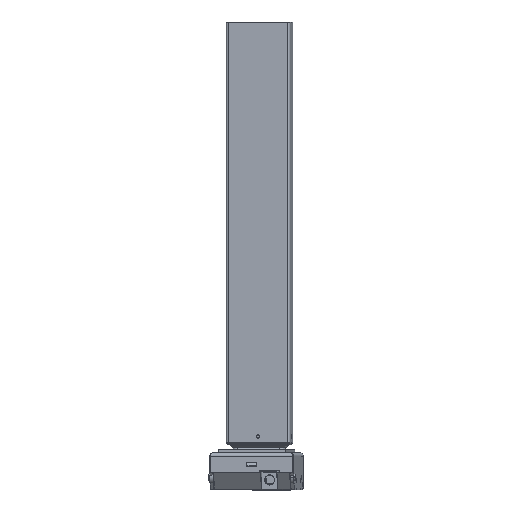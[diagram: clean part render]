
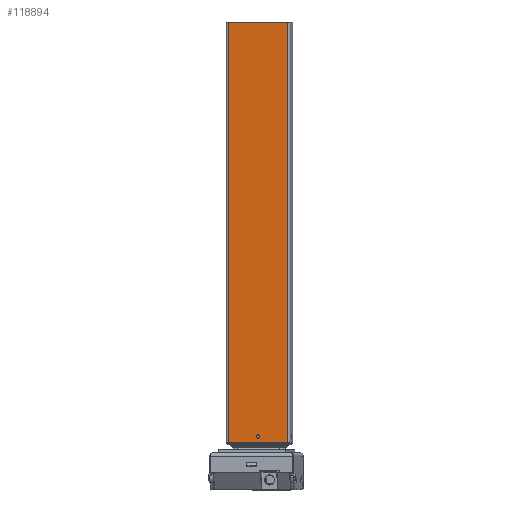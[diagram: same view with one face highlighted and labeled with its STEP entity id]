
A CAD part, left-side view. The second image highlights one B-rep face of the part: STEP entity #118894.
In plain terms, the highlighted planar face has unit normal (-0.998, 0.066, 0).
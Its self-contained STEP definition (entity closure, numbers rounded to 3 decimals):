
#2938 = CIRCLE ( 'NONE', #82003, 2. ) ;
#3315 = CARTESIAN_POINT ( 'NONE',  ( -137.133, 573.7, 275.519 ) ) ;
#5160 = VERTEX_POINT ( 'NONE', #75846 ) ;
#5946 = LINE ( 'NONE', #13181, #78690 ) ;
#7484 = DIRECTION ( 'NONE',  ( 0.066, 0.998, 0. ) ) ;
#8594 = DIRECTION ( 'NONE',  ( -0.998, 0.066, 0. ) ) ;
#12582 = EDGE_CURVE ( 'NONE', #5160, #86322, #30021, .T. ) ;
#13181 = CARTESIAN_POINT ( 'NONE',  ( -142.034, 499.863, 275.519 ) ) ;
#19700 = ORIENTED_EDGE ( 'NONE', *, *, #46180, .T. ) ;
#23127 = EDGE_LOOP ( 'NONE', ( #19700, #80571, #56531, #83882 ) ) ;
#27824 = EDGE_CURVE ( 'NONE', #75707, #83842, #2938, .T. ) ;
#28682 = LINE ( 'NONE', #63483, #53791 ) ;
#28803 = FACE_BOUND ( 'NONE', #111933, .T. ) ;
#30021 = LINE ( 'NONE', #3315, #121897 ) ;
#30097 = ORIENTED_EDGE ( 'NONE', *, *, #100463, .F. ) ;
#31633 = CARTESIAN_POINT ( 'NONE',  ( -139.584, 536.781, 283.019 ) ) ;
#42746 = LINE ( 'NONE', #98890, #54491 ) ;
#46180 = EDGE_CURVE ( 'NONE', #95981, #5160, #42746, .T. ) ;
#49522 = CARTESIAN_POINT ( 'NONE',  ( -137.133, 573.7, 275.519 ) ) ;
#50927 = DIRECTION ( 'NONE',  ( 0., 0., 1. ) ) ;
#51466 = PLANE ( 'NONE',  #90442 ) ;
#52251 = CARTESIAN_POINT ( 'NONE',  ( -139.716, 534.786, 283.019 ) ) ;
#53791 = VECTOR ( 'NONE', #7484, 1000. ) ;
#54491 = VECTOR ( 'NONE', #117518, 1000. ) ;
#56531 = ORIENTED_EDGE ( 'NONE', *, *, #110982, .F. ) ;
#56684 = CARTESIAN_POINT ( 'NONE',  ( -139.584, 536.781, 283.019 ) ) ;
#60206 = DIRECTION ( 'NONE',  ( 0.066, 0.998, 0. ) ) ;
#63483 = CARTESIAN_POINT ( 'NONE',  ( -136.934, 576.693, 275.519 ) ) ;
#65669 = CARTESIAN_POINT ( 'NONE',  ( -142.034, 499.863, 275.519 ) ) ;
#67107 = AXIS2_PLACEMENT_3D ( 'NONE', #31633, #117065, #60206 ) ;
#69654 = DIRECTION ( 'NONE',  ( 0., 0., -1. ) ) ;
#72969 = DIRECTION ( 'NONE',  ( -0.066, -0.998, 0. ) ) ;
#73848 = CARTESIAN_POINT ( 'NONE',  ( -142.034, 499.863, 801.519 ) ) ;
#75707 = VERTEX_POINT ( 'NONE', #52251 ) ;
#75846 = CARTESIAN_POINT ( 'NONE',  ( -137.133, 573.7, 801.519 ) ) ;
#78690 = VECTOR ( 'NONE', #50927, 1000. ) ;
#80571 = ORIENTED_EDGE ( 'NONE', *, *, #12582, .T. ) ;
#82003 = AXIS2_PLACEMENT_3D ( 'NONE', #56684, #8594, #113951 ) ;
#83842 = VERTEX_POINT ( 'NONE', #116634 ) ;
#83882 = ORIENTED_EDGE ( 'NONE', *, *, #93861, .T. ) ;
#86322 = VERTEX_POINT ( 'NONE', #49522 ) ;
#90442 = AXIS2_PLACEMENT_3D ( 'NONE', #118661, #119845, #72969 ) ;
#93861 = EDGE_CURVE ( 'NONE', #108596, #95981, #5946, .T. ) ;
#95981 = VERTEX_POINT ( 'NONE', #73848 ) ;
#98890 = CARTESIAN_POINT ( 'NONE',  ( -136.934, 576.693, 801.519 ) ) ;
#100463 = EDGE_CURVE ( 'NONE', #83842, #75707, #116700, .T. ) ;
#101618 = FACE_OUTER_BOUND ( 'NONE', #23127, .T. ) ;
#108596 = VERTEX_POINT ( 'NONE', #65669 ) ;
#110982 = EDGE_CURVE ( 'NONE', #108596, #86322, #28682, .T. ) ;
#111701 = ORIENTED_EDGE ( 'NONE', *, *, #27824, .F. ) ;
#111933 = EDGE_LOOP ( 'NONE', ( #30097, #111701 ) ) ;
#113951 = DIRECTION ( 'NONE',  ( 0.066, 0.998, 0. ) ) ;
#116634 = CARTESIAN_POINT ( 'NONE',  ( -139.451, 538.777, 283.019 ) ) ;
#116700 = CIRCLE ( 'NONE', #67107, 2. ) ;
#117065 = DIRECTION ( 'NONE',  ( -0.998, 0.066, 0. ) ) ;
#117518 = DIRECTION ( 'NONE',  ( 0.066, 0.998, 0. ) ) ;
#118661 = CARTESIAN_POINT ( 'NONE',  ( -136.934, 576.693, 275.519 ) ) ;
#118894 = ADVANCED_FACE ( 'NONE', ( #28803, #101618 ), #51466, .F. ) ;
#119845 = DIRECTION ( 'NONE',  ( 0.998, -0.066, 0. ) ) ;
#121897 = VECTOR ( 'NONE', #69654, 1000. ) ;
